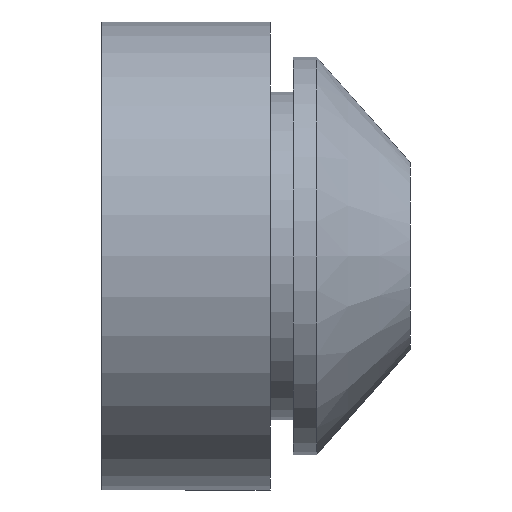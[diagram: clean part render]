
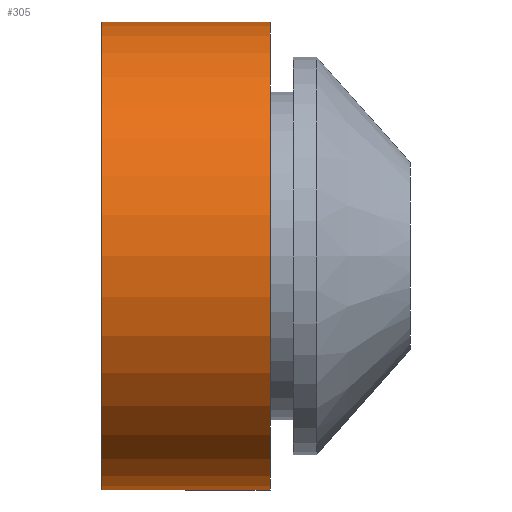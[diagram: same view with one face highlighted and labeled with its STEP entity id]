
A CAD part, left-side view. The second image highlights one B-rep face of the part: STEP entity #305.
In plain terms, the highlighted cylindrical face has radius 10 mm (diameter 20 mm), a partial arc.
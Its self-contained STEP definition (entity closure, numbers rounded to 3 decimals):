
#20 = CARTESIAN_POINT ( 'NONE',  ( 0., 13.2, 10. ) ) ;
#47 = LINE ( 'NONE', #249, #48 ) ;
#48 = VECTOR ( 'NONE', #254, 1000. ) ;
#50 = LINE ( 'NONE', #258, #288 ) ;
#51 = CIRCLE ( 'NONE', #77, 10. ) ;
#55 = EDGE_CURVE ( 'NONE', #331, #329, #47, .T. ) ;
#56 = EDGE_CURVE ( 'NONE', #382, #331, #51, .T. ) ;
#58 = EDGE_CURVE ( 'NONE', #382, #336, #50, .T. ) ;
#74 = EDGE_CURVE ( 'NONE', #336, #329, #98, .T. ) ;
#77 = AXIS2_PLACEMENT_3D ( 'NONE', #259, #256, #257 ) ;
#98 = CIRCLE ( 'NONE', #226, 10. ) ;
#114 = FACE_OUTER_BOUND ( 'NONE', #318, .T. ) ;
#121 = CYLINDRICAL_SURFACE ( 'NONE', #240, 10. ) ;
#172 = CARTESIAN_POINT ( 'NONE',  ( 0., 6., 0. ) ) ;
#173 = DIRECTION ( 'NONE',  ( 0., -1., 0. ) ) ;
#174 = DIRECTION ( 'NONE',  ( 0., 0., -1. ) ) ;
#211 = DIRECTION ( 'NONE',  ( 0., 0., -1. ) ) ;
#213 = DIRECTION ( 'NONE',  ( 0., -1., 0. ) ) ;
#214 = CARTESIAN_POINT ( 'NONE',  ( 0., 6., 10. ) ) ;
#215 = CARTESIAN_POINT ( 'NONE',  ( 0., 0., 0. ) ) ;
#218 = CARTESIAN_POINT ( 'NONE',  ( 0., 6., -10. ) ) ;
#226 = AXIS2_PLACEMENT_3D ( 'NONE', #172, #173, #174 ) ;
#240 = AXIS2_PLACEMENT_3D ( 'NONE', #215, #213, #211 ) ;
#249 = CARTESIAN_POINT ( 'NONE',  ( 0., 0., -10. ) ) ;
#254 = DIRECTION ( 'NONE',  ( 0., -1., 0. ) ) ;
#255 = DIRECTION ( 'NONE',  ( 0., -1., 0. ) ) ;
#256 = DIRECTION ( 'NONE',  ( 0., -1., 0. ) ) ;
#257 = DIRECTION ( 'NONE',  ( 0., 0., -1. ) ) ;
#258 = CARTESIAN_POINT ( 'NONE',  ( 0., 0., 10. ) ) ;
#259 = CARTESIAN_POINT ( 'NONE',  ( 0., 13.2, 0. ) ) ;
#288 = VECTOR ( 'NONE', #255, 1000. ) ;
#293 = CARTESIAN_POINT ( 'NONE',  ( 0., 13.2, -10. ) ) ;
#305 = ADVANCED_FACE ( 'NONE', ( #114 ), #121, .T. ) ;
#310 = ORIENTED_EDGE ( 'NONE', *, *, #56, .T. ) ;
#313 = ORIENTED_EDGE ( 'NONE', *, *, #58, .F. ) ;
#318 = EDGE_LOOP ( 'NONE', ( #313, #310, #354, #352 ) ) ;
#329 = VERTEX_POINT ( 'NONE', #218 ) ;
#331 = VERTEX_POINT ( 'NONE', #293 ) ;
#336 = VERTEX_POINT ( 'NONE', #214 ) ;
#352 = ORIENTED_EDGE ( 'NONE', *, *, #74, .F. ) ;
#354 = ORIENTED_EDGE ( 'NONE', *, *, #55, .T. ) ;
#382 = VERTEX_POINT ( 'NONE', #20 ) ;
